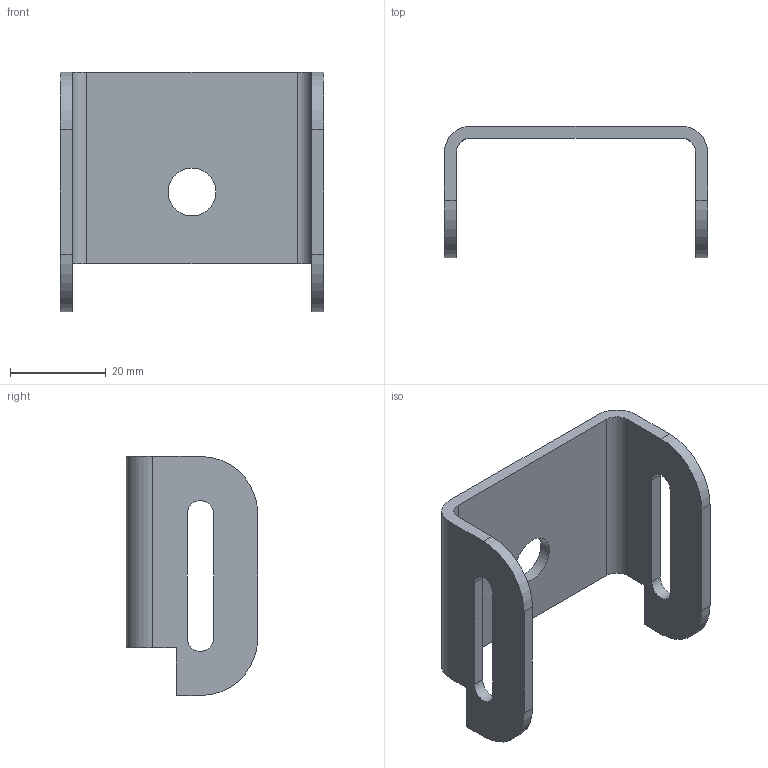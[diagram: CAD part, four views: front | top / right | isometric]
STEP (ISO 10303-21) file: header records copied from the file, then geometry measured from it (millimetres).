
FILE_DESCRIPTION( ( 'Unknown' ), '1' );
FILE_NAME( 'F:/navkite transat/construction/2016/3D ET ASSEMBLAGES/desal/DES 25.stp', 'Unknown', ( 'GMA' ), ( 'Unknown' ), 'XStep 1.0', 'Unknown', ' ' );
FILE_SCHEMA( ( 'automotive_design' ) );
Length unit declared in the file: millimetre
Products named in the file (1): 1
Bounding box: 55 x 27.5 x 50 mm (x, y, z)
Volume: 9646 mm3; surface area: 8897 mm2
Topology: 1 solids, 1 shells, 31 faces, 88 edges, 59 vertices
Faces by surface type: plane 18, cylinder 13
Full cylindrical faces by diameter (mm): 10 x1
Entity records: 1278 total; most frequent: CARTESIAN_POINT 176, DIRECTION 176, ORIENTED_EDGE 172, EDGE_CURVE 86, LINE 60, VECTOR 60, AXIS2_PLACEMENT_3D 58, VERTEX_POINT 58
